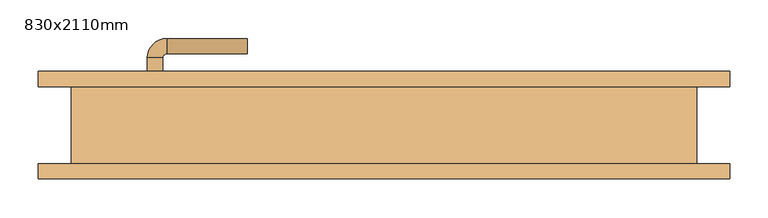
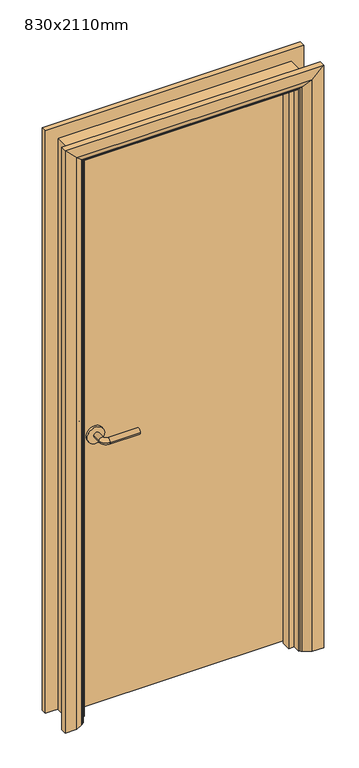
"""IFC4 building model written with IfcOpenShell, lengths in millimetres: door geometry, BIMHealth-Single_Door_841mm_Wide-LOD2A-v1 : 830x2110mm."""

from ifc_helpers import new_model, si_unit, point, frame, frame_2d, origin, place, context, project, spatial, polyline, circle_curve, ellipse_curve, trimmed, segment, composite_curve, outline, extrude, faceted_brep, source, transform, mapped, element, save
from ifc_brep_helpers import plane_surface, cylinder_surface, revolved_surface, advanced_brep


def door_830x2110mm_542d9b71(model_context):
    return source(origin(), model_context, "Body", "SolidModel", [
        advanced_brep(
        [(-308.0, 4.0, 1000.0), (-288.0, 4.0, 1000.0), (-288.0, -26.0, 1000.0), (-308.0, -26.0, 1000.0), (-283.0, -31.0, 1000.0), (-283.0, -51.0, 1000.0), (-178.0, -51.0, 1000.0), (-178.0, -31.0, 1000.0)],
        [
            (0, 1, circle_curve(frame((-298.0, 4.0, 1000.0), z_axis=(0.0, 1.0, 0.0), x_axis=(1.0, 0.0, 0.0)), 10.0)),
            (1, 0, circle_curve(frame((-298.0, 4.0, 1000.0), z_axis=(0.0, 1.0, 0.0), x_axis=(1.0, 0.0, 0.0)), 10.0)),
            (1, 2),
            (2, 3, circle_curve(frame((-298.0, -26.0, 1000.0), z_axis=(0.0, 1.0, 0.0), x_axis=(1.0, 0.0, 0.0)), 10.0)),
            (3, 0),
            (3, 2, circle_curve(frame((-298.0, -26.0, 1000.0), z_axis=(0.0, 1.0, 0.0), x_axis=(1.0, 0.0, 0.0)), 10.0)),
            (4, 5, circle_curve(frame((-283.0, -41.0, 1000.0), z_axis=(-1.0, 0.0, 0.0), x_axis=(0.0, 1.0, 0.0)), 10.0)),
            (5, 3, circle_curve(frame((-283.0, -26.0, 1000.0), z_axis=(0.0, 0.0, -1.0), x_axis=(-1.0, 0.0, 0.0)), 25.0)),
            (2, 4, circle_curve(frame((-283.0, -26.0, 1000.0), z_axis=(0.0, 0.0, 1.0), x_axis=(-1.0, 0.0, 0.0)), 5.0)),
            (5, 4, circle_curve(frame((-283.0, -41.0, 1000.0), z_axis=(-1.0, 0.0, 0.0), x_axis=(0.0, 1.0, 0.0)), 10.0)),
            (6, 7, circle_curve(frame((-178.0, -41.0, 1000.0), z_axis=(1.0, 0.0, 0.0), x_axis=(0.0, 1.0, 0.0)), 10.0)),
            (7, 6, circle_curve(frame((-178.0, -41.0, 1000.0), z_axis=(1.0, 0.0, 0.0), x_axis=(0.0, 1.0, 0.0)), 10.0)),
            (4, 7),
            (6, 5),
        ],
        [
            plane_surface(frame((-298.0, 4.0, 1000.0), z_axis=(0.0, 1.0, 0.0), x_axis=(0.0, 0.0, 1.0))),
            cylinder_surface(frame((-298.0, 4.0, 1000.0), z_axis=(0.0, 1.0, 0.0), x_axis=(1.0, 0.0, 0.0)), 10.0),
            revolved_surface(trimmed(ellipse_curve(frame((-298.0, -26.0, 1000.0), z_axis=(0.0, -1.0, 0.0), x_axis=(1.0, 0.0, 0.0)), 10.0, 10.0), [point((-308.0, -26.0, 1000.0))], [point((-288.0, -26.0, 1000.0))], True, "CARTESIAN"), (-283.0, -26.0, 1000.0), (0.0, 0.0, -1.0)),
            revolved_surface(trimmed(ellipse_curve(frame((-298.0, -26.0, 1000.0), z_axis=(0.0, -1.0, 0.0), x_axis=(1.0, 0.0, 0.0)), 10.0, 10.0), [point((-288.0, -26.0, 1000.0))], [point((-308.0, -26.0, 1000.0))], True, "CARTESIAN"), (-283.0, -26.0, 1000.0), (0.0, 0.0, -1.0)),
            plane_surface(frame((-178.0, -41.0, 1000.0), z_axis=(1.0, 0.0, 0.0), x_axis=(0.0, 0.0, 1.0))),
            cylinder_surface(frame((-283.0, -41.0, 1000.0), z_axis=(-1.0, 0.0, 0.0), x_axis=(0.0, 1.0, 0.0)), 10.0),
        ],
        [
            (0, [[1, 2]]),
            (1, [[3, 4, 5, -2]]),
            (1, [[-5, 6, -3, -1]]),
            (2, [[7, 8, -4, 9]]),
            (3, [[10, -9, -6, -8]]),
            (4, [[11, 12]]),
            (5, [[13, -11, 14, -7]]),
            (5, [[-14, -12, -13, -10]]),
        ],
    ),
        extrude(outline(composite_curve([segment(trimmed(circle_curve(frame_2d((1000.0, -300.5)), 30.0), [point((1000.0, -330.5))], [point((1000.0, -270.5))], False, "CARTESIAN"), True, "CONTINUOUS"), segment(trimmed(circle_curve(frame_2d((1000.0, -300.5)), 30.0), [point((1000.0, -270.5))], [point((1000.0, -330.5))], False, "CARTESIAN"), True, "CONTINUOUS")], self_intersect=False)), frame((0.0, 4.0, 0.0), z_axis=(0.0, 1.0, 0.0), x_axis=(0.0, 0.0, 1.0)), (0.0, 0.0, 1.0), 8.0),
        advanced_brep(
        [(-308.0, 58.0, 1000.0), (-288.0, 58.0, 1000.0), (-308.0, 88.0, 1000.0), (-288.0, 88.0, 1000.0), (-283.0, 93.0, 1000.0), (-283.0, 113.0, 1000.0), (-178.0, 113.0, 1000.0), (-178.0, 93.0, 1000.0)],
        [
            (0, 1, circle_curve(frame((-298.0, 58.0, 1000.0), z_axis=(0.0, -1.0, 0.0), x_axis=(1.0, 0.0, 0.0)), 10.0)),
            (1, 0, circle_curve(frame((-298.0, 58.0, 1000.0), z_axis=(0.0, -1.0, 0.0), x_axis=(1.0, 0.0, 0.0)), 10.0)),
            (0, 2),
            (2, 3, circle_curve(frame((-298.0, 88.0, 1000.0), z_axis=(0.0, -1.0, 0.0), x_axis=(1.0, 0.0, 0.0)), 10.0)),
            (3, 1),
            (3, 2, circle_curve(frame((-298.0, 88.0, 1000.0), z_axis=(0.0, -1.0, 0.0), x_axis=(1.0, 0.0, 0.0)), 10.0)),
            (4, 3, circle_curve(frame((-283.0, 88.0, 1000.0), z_axis=(0.0, 0.0, 1.0), x_axis=(-1.0, 0.0, 0.0)), 5.0)),
            (2, 5, circle_curve(frame((-283.0, 88.0, 1000.0), z_axis=(0.0, 0.0, -1.0), x_axis=(-1.0, 0.0, 0.0)), 25.0)),
            (5, 4, circle_curve(frame((-283.0, 103.0, 1000.0), z_axis=(-1.0, 0.0, 0.0), x_axis=(0.0, -1.0, 0.0)), 10.0)),
            (4, 5, circle_curve(frame((-283.0, 103.0, 1000.0), z_axis=(-1.0, 0.0, 0.0), x_axis=(0.0, -1.0, 0.0)), 10.0)),
            (6, 7, circle_curve(frame((-178.0, 103.0, 1000.0), z_axis=(1.0, 0.0, 0.0), x_axis=(0.0, -1.0, 0.0)), 10.0)),
            (7, 6, circle_curve(frame((-178.0, 103.0, 1000.0), z_axis=(1.0, 0.0, 0.0), x_axis=(0.0, -1.0, 0.0)), 10.0)),
            (5, 6),
            (7, 4),
        ],
        [
            plane_surface(frame((-298.0, 58.0, 1000.0), z_axis=(0.0, -1.0, 0.0), x_axis=(0.0, 0.0, 1.0))),
            cylinder_surface(frame((-298.0, 58.0, 1000.0), z_axis=(0.0, -1.0, 0.0), x_axis=(1.0, 0.0, 0.0)), 10.0),
            revolved_surface(trimmed(ellipse_curve(frame((-298.0, 88.0, 1000.0), z_axis=(0.0, -1.0, 0.0), x_axis=(1.0, 0.0, 0.0)), 10.0, 10.0), [point((-308.0, 88.0, 1000.0))], [point((-288.0, 88.0, 1000.0))], True, "CARTESIAN"), (-283.0, 88.0, 1000.0), (0.0, 0.0, -1.0)),
            revolved_surface(trimmed(ellipse_curve(frame((-298.0, 88.0, 1000.0), z_axis=(0.0, -1.0, 0.0), x_axis=(1.0, 0.0, 0.0)), 10.0, 10.0), [point((-288.0, 88.0, 1000.0))], [point((-308.0, 88.0, 1000.0))], True, "CARTESIAN"), (-283.0, 88.0, 1000.0), (0.0, 0.0, -1.0)),
            plane_surface(frame((-178.0, 103.0, 1000.0), z_axis=(1.0, 0.0, 0.0), x_axis=(0.0, 0.0, 1.0))),
            cylinder_surface(frame((-283.0, 103.0, 1000.0), z_axis=(-1.0, 0.0, 0.0), x_axis=(0.0, -1.0, 0.0)), 10.0),
        ],
        [
            (0, [[1, 2]]),
            (1, [[-1, 3, 4, 5]]),
            (1, [[-2, -5, 6, -3]]),
            (2, [[7, -4, 8, 9]]),
            (3, [[-8, -6, -7, 10]]),
            (4, [[11, 12]]),
            (5, [[-9, 13, -12, 14]]),
            (5, [[-10, -14, -11, -13]]),
        ],
    ),
        extrude(outline(composite_curve([segment(trimmed(circle_curve(frame_2d((1000.0, -300.5)), 30.0), [point((1000.0, -330.5))], [point((1000.0, -270.5))], False, "CARTESIAN"), True, "CONTINUOUS"), segment(trimmed(circle_curve(frame_2d((1000.0, -300.5)), 30.0), [point((1000.0, -270.5))], [point((1000.0, -330.5))], False, "CARTESIAN"), True, "CONTINUOUS")], self_intersect=False)), frame((0.0, 50.0, 0.0), z_axis=(0.0, 1.0, 0.0), x_axis=(0.0, 0.0, 1.0)), (0.0, 0.0, 1.0), 8.0),
        extrude(outline(polyline([(373.0, 12.0), (-373.0, 12.0), (-373.0, 50.0), (373.0, 50.0), (373.0, 12.0)])), frame((0.0, 0.0, 8.0), z_axis=(0.0, 0.0, 1.0), x_axis=(1.0, 0.0, 0.0)), (0.0, 0.0, 1.0), 2060.0),
        advanced_brep(
        [(450.0, 70.0, 0.0), (450.0, 50.0, 0.0), (380.0, 50.0, 0.0), (384.0, 56.0, 0.0), (410.0, 70.0, 0.0), (450.0, 70.0, 2145.0), (450.0, 50.0, 2145.0), (-450.0, 50.0, 2145.0), (-450.0, 50.0, 0.0), (-380.0, 50.0, 0.0), (-380.0, 50.0, 2075.0), (380.0, 50.0, 2075.0), (384.0, 56.0, 2079.0), (410.0, 70.0, 2105.0), (-410.0, 70.0, 2105.0), (-410.0, 70.0, 0.0), (-450.0, 70.0, 0.0), (-450.0, 70.0, 2145.0), (-384.0, 56.0, 0.0), (-384.0, 56.0, 2079.0)],
        [
            (0, 1),
            (1, 2),
            (2, 3, circle_curve(frame((388.0, 49.0, 0.0), z_axis=(0.0, 0.0, -1.0), x_axis=(1.0, 0.0, 0.0)), 8.0622577)),
            (3, 4),
            (4, 0),
            (0, 5),
            (5, 6),
            (6, 1),
            (6, 7),
            (7, 8),
            (8, 9),
            (9, 10),
            (10, 11),
            (11, 2),
            (11, 12, ellipse_curve(frame((388.0, 49.0, 2083.0), z_axis=(0.7071067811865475, 0.0, -0.7071067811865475), x_axis=(-0.7071067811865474, 0.0, -0.7071067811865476)), 11.4017543, 8.0622577)),
            (12, 3),
            (12, 13),
            (13, 4),
            (13, 14),
            (14, 15),
            (15, 16),
            (16, 17),
            (17, 5),
            (7, 17),
            (16, 8),
            (15, 18),
            (18, 9, circle_curve(frame((-388.0, 49.0, 0.0), z_axis=(0.0, 0.0, -1.0), x_axis=(-1.0, 0.0, 0.0)), 8.0622577)),
            (19, 10, ellipse_curve(frame((-388.0, 49.0, 2083.0), z_axis=(-0.7071067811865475, 0.0, -0.7071067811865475), x_axis=(-0.7071067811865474, 0.0, 0.7071067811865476)), 11.4017543, 8.0622577)),
            (18, 19),
            (14, 19),
            (19, 12),
        ],
        [
            plane_surface(frame((380.0, 50.0, 0.0), z_axis=(0.0, 0.0, -1.0), x_axis=(0.0, -1.0, 0.0))),
            plane_surface(frame((450.0, 70.0, 0.0), z_axis=(1.0, 0.0, 0.0), x_axis=(0.0, 0.0, 1.0))),
            plane_surface(frame((450.0, 50.0, 0.0), z_axis=(0.0, -1.0, 0.0), x_axis=(0.0, 0.0, 1.0))),
            cylinder_surface(frame((388.0, 49.0, 0.0), z_axis=(0.0, 0.0, -1.0), x_axis=(1.0, 0.0, 0.0)), 8.0622577),
            plane_surface(frame((384.0, 56.0, 0.0), z_axis=(-0.4740998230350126, 0.880471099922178, 0.0), x_axis=(0.0, 0.0, 1.0))),
            plane_surface(frame((410.0, 70.0, 0.0), z_axis=(0.0, 1.0, 0.0), x_axis=(0.0, 0.0, 1.0))),
            plane_surface(frame((-450.0, 70.0, 2145.0), z_axis=(-1.0, 0.0, 0.0), x_axis=(0.0, 0.0, -1.0))),
            plane_surface(frame((-380.0, 50.0, 0.0), z_axis=(0.0, 0.0, -1.0), x_axis=(0.0, -1.0, 0.0))),
            cylinder_surface(frame((-388.0, 49.0, 2075.0), z_axis=(0.0, 0.0, 1.0), x_axis=(-1.0, 0.0, 0.0)), 8.0622577),
            plane_surface(frame((-384.0, 56.0, 2079.0), z_axis=(0.47409982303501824, 0.8804710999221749, 0.0), x_axis=(0.0, 0.0, -1.0))),
            plane_surface(frame((450.0, 70.0, 2145.0), z_axis=(0.0, 0.0, 1.0), x_axis=(-1.0, 0.0, 0.0))),
            cylinder_surface(frame((380.0, 49.0, 2083.0), z_axis=(1.0, 0.0, 0.0), x_axis=(0.0, 0.0, 1.0)), 8.0622577),
            plane_surface(frame((384.0, 56.0, 2079.0), z_axis=(0.0, 0.8804710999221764, -0.4740998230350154), x_axis=(-1.0, 0.0, 0.0))),
        ],
        [
            (0, [[1, 2, 3, 4, 5]]),
            (1, [[-1, 6, 7, 8]]),
            (2, [[-2, -8, 9, 10, 11, 12, 13, 14]]),
            (3, [[-3, -14, 15, 16]]),
            (4, [[-4, -16, 17, 18]]),
            (5, [[-5, -18, 19, 20, 21, 22, 23, -6]]),
            (6, [[24, -22, 25, -10]]),
            (7, [[-21, 26, 27, -11, -25]]),
            (8, [[28, -12, -27, 29]]),
            (9, [[30, -29, -26, -20]]),
            (10, [[-7, -23, -24, -9]]),
            (11, [[-15, -13, -28, 31]]),
            (12, [[-17, -31, -30, -19]]),
        ],
    ),
        extrude(outline(polyline([(0.0, -375.0), (0.0, -356.0), (2051.0, -356.0), (2051.0, 356.0), (0.0, 356.0), (0.0, 375.0), (2070.0, 375.0), (2070.0, -375.0), (0.0, -375.0)])), frame((0.0, -22.0, 0.0), z_axis=(0.0, 1.0, 0.0), x_axis=(0.0, 0.0, 1.0)), (0.0, 0.0, 1.0), 32.0),
        advanced_brep(
        [(-450.0, -70.0, 0.0), (-450.0, -50.0, 0.0), (-380.0, -50.0, 0.0), (-384.0, -56.0, 0.0), (-410.0, -70.0, 0.0), (-450.0, -70.0, 2145.0), (-450.0, -50.0, 2145.0), (-380.0, -50.0, 2075.0), (-384.0, -56.0, 2079.0), (-410.0, -70.0, 2105.0), (450.0, -70.0, 0.0), (410.0, -70.0, 0.0), (384.0, -56.0, 0.0), (380.0, -50.0, 0.0), (450.0, -50.0, 0.0), (450.0, -70.0, 2145.0), (410.0, -70.0, 2105.0), (384.0, -56.0, 2079.0), (380.0, -50.0, 2075.0), (450.0, -50.0, 2145.0)],
        [
            (0, 1),
            (1, 2),
            (2, 3, circle_curve(frame((-388.0, -49.0, 0.0), z_axis=(0.0, 0.0, -1.0), x_axis=(-1.0, 0.0, 0.0)), 8.0622577)),
            (3, 4),
            (4, 0),
            (0, 5),
            (5, 6),
            (6, 1),
            (6, 7),
            (7, 2),
            (7, 8, ellipse_curve(frame((-388.0, -49.0, 2083.0), z_axis=(-0.7071067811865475, 0.0, -0.7071067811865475), x_axis=(0.7071067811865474, 0.0, -0.7071067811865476)), 11.4017543, 8.0622577)),
            (8, 3),
            (8, 9),
            (9, 4),
            (9, 5),
            (10, 11),
            (11, 12),
            (12, 13, circle_curve(frame((388.0, -49.0, 0.0), z_axis=(0.0, 0.0, -1.0), x_axis=(1.0, 0.0, 0.0)), 8.0622577)),
            (13, 14),
            (14, 10),
            (15, 16),
            (16, 11),
            (10, 15),
            (16, 17),
            (17, 12),
            (17, 18, ellipse_curve(frame((388.0, -49.0, 2083.0), z_axis=(0.7071067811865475, 0.0, -0.7071067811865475), x_axis=(0.7071067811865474, 0.0, 0.7071067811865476)), 11.4017543, 8.0622577)),
            (18, 13),
            (18, 19),
            (19, 14),
            (19, 15),
            (5, 15),
            (19, 6),
            (18, 7),
            (17, 8),
            (16, 9),
        ],
        [
            plane_surface(frame((-380.0, -122.8010989, 0.0), z_axis=(0.0, 0.0, -1.0), x_axis=(1.0, 0.0, 0.0))),
            plane_surface(frame((-450.0, -70.0, 0.0), z_axis=(-1.0, 0.0, 0.0), x_axis=(0.0, 0.0, 1.0))),
            plane_surface(frame((-450.0, -50.0, 0.0), z_axis=(0.0, 1.0, 0.0), x_axis=(0.0, 0.0, 1.0))),
            cylinder_surface(frame((-388.0, -49.0, 0.0), z_axis=(0.0, 0.0, -1.0), x_axis=(-1.0, 0.0, 0.0)), 8.0622577),
            plane_surface(frame((-384.0, -56.0, 0.0), z_axis=(0.4740998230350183, -0.8804710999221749, 0.0), x_axis=(0.0, 0.0, 1.0))),
            plane_surface(frame((-410.0, -70.0, 0.0), z_axis=(0.0, -1.0, 0.0), x_axis=(0.0, 0.0, 1.0))),
            plane_surface(frame((380.0, -122.8010989, 0.0), z_axis=(0.0, 0.0, -1.0), x_axis=(-1.0, 0.0, 0.0))),
            plane_surface(frame((410.0, -70.0, 2105.0), z_axis=(0.0, -1.0, 0.0), x_axis=(0.0, 0.0, -1.0))),
            plane_surface(frame((384.0, -56.0, 2079.0), z_axis=(-0.4740998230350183, -0.8804710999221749, 0.0), x_axis=(0.0, 0.0, -1.0))),
            cylinder_surface(frame((388.0, -49.0, 2075.0), z_axis=(0.0, 0.0, 1.0), x_axis=(1.0, 0.0, 0.0)), 8.0622577),
            plane_surface(frame((450.0, -50.0, 2145.0), z_axis=(0.0, 1.0, 0.0), x_axis=(0.0, 0.0, -1.0))),
            plane_surface(frame((450.0, -70.0, 2145.0), z_axis=(1.0, 0.0, 0.0), x_axis=(0.0, 0.0, -1.0))),
            plane_surface(frame((-450.0, -70.0, 2145.0), z_axis=(0.0, 0.0, 1.0), x_axis=(1.0, 0.0, 0.0))),
            plane_surface(frame((-450.0, -50.0, 2145.0), z_axis=(0.0, 1.0, 0.0), x_axis=(1.0, 0.0, 0.0))),
            cylinder_surface(frame((-380.0, -49.0, 2083.0), z_axis=(-1.0, 0.0, 0.0), x_axis=(0.0, 0.0, 1.0)), 8.0622577),
            plane_surface(frame((-384.0, -56.0, 2079.0), z_axis=(0.0, -0.8804710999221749, -0.4740998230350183), x_axis=(1.0, 0.0, 0.0))),
            plane_surface(frame((-410.0, -70.0, 2105.0), z_axis=(0.0, -1.0, 0.0), x_axis=(1.0, 0.0, 0.0))),
        ],
        [
            (0, [[1, 2, 3, 4, 5]]),
            (1, [[-1, 6, 7, 8]]),
            (2, [[-2, -8, 9, 10]]),
            (3, [[-3, -10, 11, 12]]),
            (4, [[-4, -12, 13, 14]]),
            (5, [[-5, -14, 15, -6]]),
            (6, [[16, 17, 18, 19, 20]]),
            (7, [[21, 22, -16, 23]]),
            (8, [[24, 25, -17, -22]]),
            (9, [[26, 27, -18, -25]]),
            (10, [[28, 29, -19, -27]]),
            (11, [[30, -23, -20, -29]]),
            (12, [[-7, 31, -30, 32]]),
            (13, [[-9, -32, -28, 33]]),
            (14, [[-11, -33, -26, 34]]),
            (15, [[-13, -34, -24, 35]]),
            (16, [[-15, -35, -21, -31]]),
        ],
    ),
        faceted_brep([(-375.0, 50.0, 0.0), (-375.0, -50.0, 0.0), (-407.0, -50.0, 0.0), (-407.0, 50.0, 0.0), (-375.0, 50.0, 2070.0), (-375.0, -50.0, 2070.0), (-407.0, -50.0, 2102.0), (-407.0, 50.0, 2102.0), (375.0, 50.0, 0.0), (407.0, 50.0, 0.0), (407.0, -50.0, 0.0), (375.0, -50.0, 0.0), (375.0, 50.0, 2070.0), (407.0, 50.0, 2102.0), (407.0, -50.0, 2102.0), (375.0, -50.0, 2070.0)], [[[0, 1, 2, 3]], [[1, 0, 4, 5]], [[2, 1, 5, 6]], [[3, 2, 6, 7]], [[0, 3, 7, 4]], [[8, 9, 10, 11]], [[12, 13, 9, 8]], [[13, 14, 10, 9]], [[14, 15, 11, 10]], [[15, 12, 8, 11]], [[5, 4, 12, 15]], [[6, 5, 15, 14]], [[7, 6, 14, 13]], [[4, 7, 13, 12]]]),
    ])


if __name__ == "__main__":
    model = new_model("IFC4")
    model_context = context("Model", 3, world=origin())
    ifc_project = project(units=[si_unit("LENGTHUNIT", "METRE", prefix="MILLI")], contexts=[model_context])
    site = spatial("IfcSite", under=ifc_project)
    building = spatial("IfcBuilding", under=site)
    placement = place(None, origin())
    door_830x2110mm_shape = door_830x2110mm_542d9b71(model_context)
    element("IfcDoor", 1, ObjectType="BIMHealth-Single_Door_841mm_Wide-LOD2A-v1 : 830x2110mm", at=placement, inside=building, context=model_context, shape_type="MappedRepresentation", body=[
        mapped(door_830x2110mm_shape, transform((0.0, 0.0, 0.0), x_axis=(1.0, 0.0, 0.0), y_axis=(0.0, 1.0, 0.0), z_axis=(0.0, 0.0, 1.0))),
    ])
    save(model, "model.ifc")
